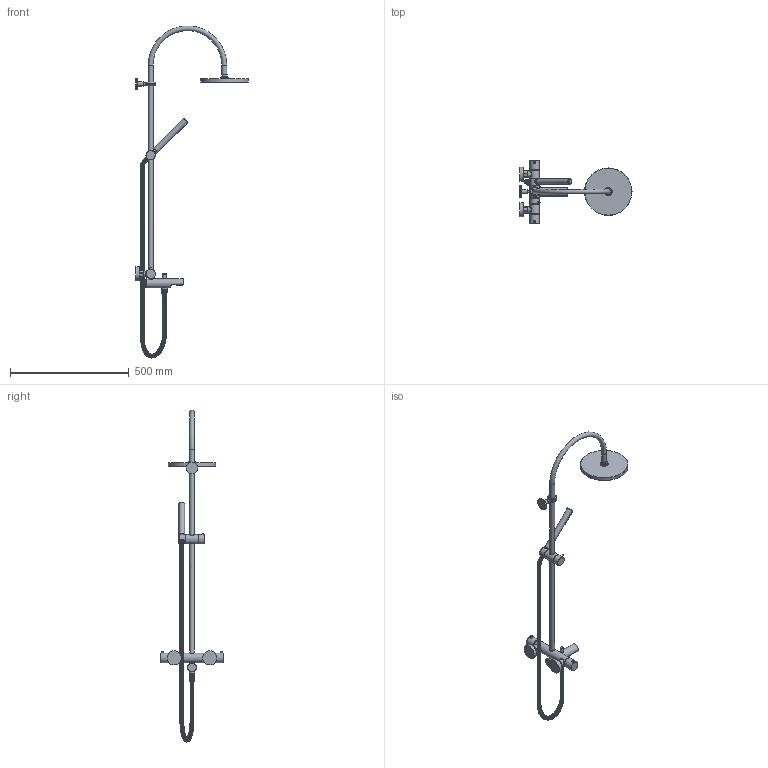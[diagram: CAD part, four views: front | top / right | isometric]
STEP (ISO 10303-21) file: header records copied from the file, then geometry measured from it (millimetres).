
FILE_DESCRIPTION(('STEP AP214'), '1');
FILE_NAME('78CR687TH1KM', '', ('UNSPECIFIED'), ('UNSPECIFIED'), 'ASCON STEP Converter 1.6', 'ASCON Math Kernel', '');
FILE_SCHEMA(('AUTOMOTIVE_DESIGN { 1 0 10303 214 3 1 1}'));
Length unit declared in the file: millimetre
Bounding box: 472 x 266 x 1399.02 mm (x, y, z)
Volume: 2009284.4 mm3; surface area: 466785.2 mm2
Topology: 452 solids, 452 shells, 2131 faces, 3569 edges, 2359 vertices
Faces by surface type: plane 1025, cylinder 687, cone 354, torus 48, bspline 16, extrusion 1
Full cylindrical faces by diameter (mm): 0.7 x52, 2 x52, 6.418 x1, 7 x1, 8 x2, 8.2 x2, 10 x1, 14 x3, 15 x230, 16 x229, 17 x1, 18 x1, 20 x2, 21 x2, 22 x3, 23 x2, 24 x1, 26 x1, 32.937 x1, 38 x1, 40 x3, 41 x3, 50 x1, 60 x2, 200 x1
Entity records: 78334 total; most frequent: CARTESIAN_POINT 18508, DIRECTION 8780, ORIENTED_EDGE 5132, AXIS2_PLACEMENT_3D 4285, EDGE_LOOP 4041, COLOUR_RGB 2586, PRESENTATION_STYLE_ASSIGNMENT 2586, STYLED_ITEM 2586
